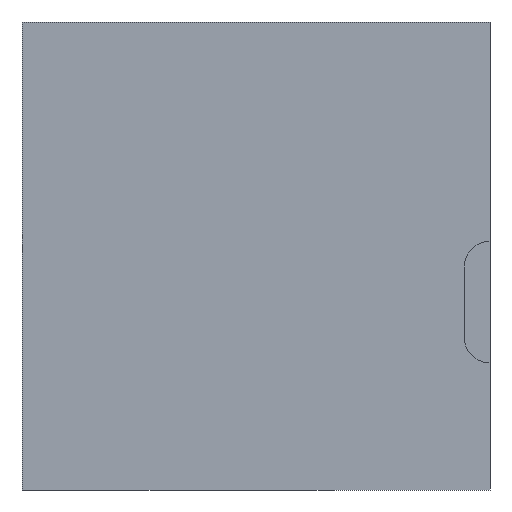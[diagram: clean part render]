
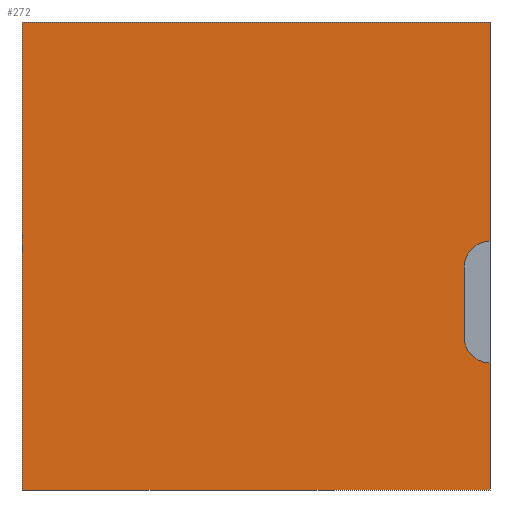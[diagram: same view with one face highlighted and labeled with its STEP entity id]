
A CAD part, left-side view. The second image highlights one B-rep face of the part: STEP entity #272.
In plain terms, the highlighted planar face has unit normal (-1, 0, 0).
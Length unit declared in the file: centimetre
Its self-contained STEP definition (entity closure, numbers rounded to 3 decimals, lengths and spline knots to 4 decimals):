
#45 = DIRECTION ( 'NONE',  ( -1., 0., 0. ) ) ;
#83 = VERTEX_POINT ( 'NONE', #189 ) ;
#95 = EDGE_CURVE ( 'NONE', #198, #703, #613, .T. ) ;
#101 = VERTEX_POINT ( 'NONE', #439 ) ;
#104 = LINE ( 'NONE', #531, #645 ) ;
#109 = CARTESIAN_POINT ( 'NONE',  ( 0., 55.0355, 476.4925 ) ) ;
#114 = EDGE_CURVE ( 'NONE', #768, #462, #376, .T. ) ;
#116 = CARTESIAN_POINT ( 'NONE',  ( 0., 0., 476.4925 ) ) ;
#148 = CARTESIAN_POINT ( 'NONE',  ( 0., 0., 531.528 ) ) ;
#152 = LINE ( 'NONE', #330, #204 ) ;
#156 = AXIS2_PLACEMENT_3D ( 'NONE', #712, #283, #163 ) ;
#163 = DIRECTION ( 'NONE',  ( 0., 0., -1. ) ) ;
#171 = LINE ( 'NONE', #109, #528 ) ;
#189 = CARTESIAN_POINT ( 'NONE',  ( 0., 55.0355, 326.3941 ) ) ;
#198 = VERTEX_POINT ( 'NONE', #287 ) ;
#204 = VECTOR ( 'NONE', #521, 100. ) ;
#212 = EDGE_CURVE ( 'NONE', #83, #768, #492, .T. ) ;
#215 = CARTESIAN_POINT ( 'NONE',  ( 0., 55.0355, 476.4925 ) ) ;
#224 = AXIS2_PLACEMENT_3D ( 'NONE', #116, #358, #608 ) ;
#229 = EDGE_CURVE ( 'NONE', #703, #747, #104, .T. ) ;
#234 = DIRECTION ( 'NONE',  ( 0., 0., -1. ) ) ;
#235 = ORIENTED_EDGE ( 'NONE', *, *, #229, .F. ) ;
#247 = EDGE_CURVE ( 'NONE', #700, #83, #171, .T. ) ;
#255 = CARTESIAN_POINT ( 'NONE',  ( 0., 0., 271.3586 ) ) ;
#262 = EDGE_LOOP ( 'NONE', ( #377, #652, #762, #779, #235, #320, #697, #482 ) ) ;
#267 = EDGE_CURVE ( 'NONE', #101, #462, #344, .T. ) ;
#272 = ADVANCED_FACE ( 'NONE', ( #540 ), #602, .F. ) ;
#282 = VECTOR ( 'NONE', #548, 100. ) ;
#283 = DIRECTION ( 'NONE',  ( 1., 0., 0. ) ) ;
#287 = CARTESIAN_POINT ( 'NONE',  ( 0., 1000., 1000. ) ) ;
#320 = ORIENTED_EDGE ( 'NONE', *, *, #95, .F. ) ;
#330 = CARTESIAN_POINT ( 'NONE',  ( 0., 1000., 1000. ) ) ;
#344 = LINE ( 'NONE', #666, #282 ) ;
#351 = DIRECTION ( 'NONE',  ( 0., 0., 1. ) ) ;
#358 = DIRECTION ( 'NONE',  ( -1., 0., 0. ) ) ;
#376 = LINE ( 'NONE', #562, #663 ) ;
#377 = ORIENTED_EDGE ( 'NONE', *, *, #114, .F. ) ;
#419 = DIRECTION ( 'NONE',  ( 0., 0., -1. ) ) ;
#434 = CARTESIAN_POINT ( 'NONE',  ( 0., 1000., 1000. ) ) ;
#437 = AXIS2_PLACEMENT_3D ( 'NONE', #781, #45, #351 ) ;
#439 = CARTESIAN_POINT ( 'NONE',  ( 0., 1000., 0. ) ) ;
#462 = VERTEX_POINT ( 'NONE', #679 ) ;
#465 = CIRCLE ( 'NONE', #224, 55.0355 ) ;
#482 = ORIENTED_EDGE ( 'NONE', *, *, #267, .T. ) ;
#489 = DIRECTION ( 'NONE',  ( 0., 0., -1. ) ) ;
#492 = CIRCLE ( 'NONE', #437, 55.0355 ) ;
#521 = DIRECTION ( 'NONE',  ( 0., 0., -1. ) ) ;
#528 = VECTOR ( 'NONE', #419, 100. ) ;
#531 = CARTESIAN_POINT ( 'NONE',  ( 0., 0., 1000. ) ) ;
#540 = FACE_OUTER_BOUND ( 'NONE', #262, .T. ) ;
#548 = DIRECTION ( 'NONE',  ( 0., -1., 0. ) ) ;
#555 = VECTOR ( 'NONE', #625, 100. ) ;
#562 = CARTESIAN_POINT ( 'NONE',  ( 0., 0., 1000. ) ) ;
#563 = EDGE_CURVE ( 'NONE', #747, #700, #465, .T. ) ;
#586 = CARTESIAN_POINT ( 'NONE',  ( 0., 0., 1000. ) ) ;
#602 = PLANE ( 'NONE',  #156 ) ;
#608 = DIRECTION ( 'NONE',  ( 0., 0., 1. ) ) ;
#613 = LINE ( 'NONE', #434, #555 ) ;
#625 = DIRECTION ( 'NONE',  ( 0., -1., 0. ) ) ;
#645 = VECTOR ( 'NONE', #234, 100. ) ;
#652 = ORIENTED_EDGE ( 'NONE', *, *, #212, .F. ) ;
#663 = VECTOR ( 'NONE', #489, 100. ) ;
#666 = CARTESIAN_POINT ( 'NONE',  ( 0., 1000., 0. ) ) ;
#679 = CARTESIAN_POINT ( 'NONE',  ( 0., 0., 0. ) ) ;
#697 = ORIENTED_EDGE ( 'NONE', *, *, #736, .T. ) ;
#700 = VERTEX_POINT ( 'NONE', #215 ) ;
#703 = VERTEX_POINT ( 'NONE', #586 ) ;
#712 = CARTESIAN_POINT ( 'NONE',  ( 0., 1000., 1000. ) ) ;
#736 = EDGE_CURVE ( 'NONE', #198, #101, #152, .T. ) ;
#747 = VERTEX_POINT ( 'NONE', #148 ) ;
#762 = ORIENTED_EDGE ( 'NONE', *, *, #247, .F. ) ;
#768 = VERTEX_POINT ( 'NONE', #255 ) ;
#779 = ORIENTED_EDGE ( 'NONE', *, *, #563, .F. ) ;
#781 = CARTESIAN_POINT ( 'NONE',  ( 0., 0., 326.3941 ) ) ;
